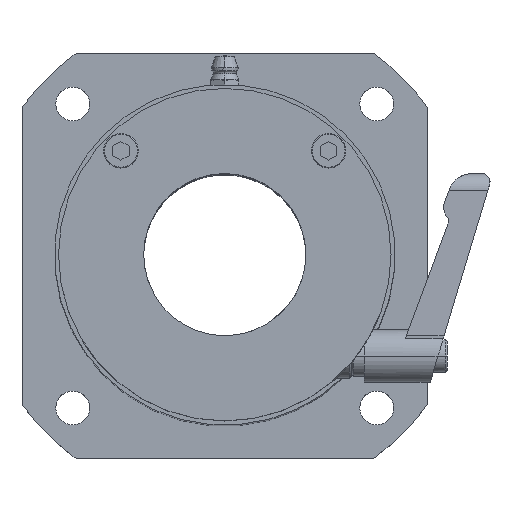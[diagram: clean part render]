
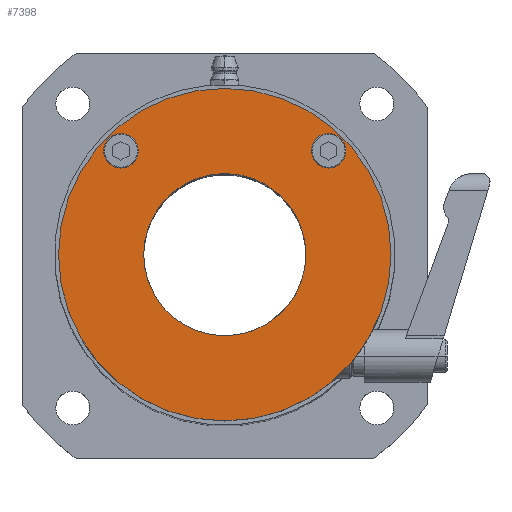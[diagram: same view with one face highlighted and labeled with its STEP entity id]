
A CAD part, top view. The second image highlights one B-rep face of the part: STEP entity #7398.
In plain terms, the highlighted planar face has unit normal (0, 0, 1).
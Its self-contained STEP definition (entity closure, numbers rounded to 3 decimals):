
#569 = DIRECTION ( 'NONE',  ( 1., 0., 0. ) ) ;
#674 = VERTEX_POINT ( 'NONE', #6878 ) ;
#787 = DIRECTION ( 'NONE',  ( 1., 0., 0. ) ) ;
#865 = AXIS2_PLACEMENT_3D ( 'NONE', #6500, #1279, #787 ) ;
#940 = EDGE_LOOP ( 'NONE', ( #10133, #3564 ) ) ;
#1079 = CARTESIAN_POINT ( 'NONE',  ( -40.778, -3.051, 92. ) ) ;
#1110 = ORIENTED_EDGE ( 'NONE', *, *, #3801, .F. ) ;
#1279 = DIRECTION ( 'NONE',  ( 0., 0., 1. ) ) ;
#1684 = EDGE_CURVE ( 'NONE', #2600, #7761, #4446, .T. ) ;
#1765 = CARTESIAN_POINT ( 'NONE',  ( 21.572, 22.549, 92. ) ) ;
#2166 = PLANE ( 'NONE',  #7165 ) ;
#2192 = DIRECTION ( 'NONE',  ( 1., 0., 0. ) ) ;
#2250 = ORIENTED_EDGE ( 'NONE', *, *, #6498, .F. ) ;
#2260 = FACE_BOUND ( 'NONE', #940, .T. ) ;
#2405 = AXIS2_PLACEMENT_3D ( 'NONE', #3417, #10347, #6831 ) ;
#2600 = VERTEX_POINT ( 'NONE', #8654 ) ;
#2633 = EDGE_LOOP ( 'NONE', ( #6880, #8401 ) ) ;
#2998 = FACE_BOUND ( 'NONE', #3782, .T. ) ;
#3051 = DIRECTION ( 'NONE',  ( 1., 0., 0. ) ) ;
#3347 = DIRECTION ( 'NONE',  ( 0., 0., 1. ) ) ;
#3367 = ORIENTED_EDGE ( 'NONE', *, *, #7316, .F. ) ;
#3416 = EDGE_CURVE ( 'NONE', #7761, #2600, #6385, .T. ) ;
#3417 = CARTESIAN_POINT ( 'NONE',  ( 0.222, -3.051, 92. ) ) ;
#3564 = ORIENTED_EDGE ( 'NONE', *, *, #5641, .F. ) ;
#3627 = CARTESIAN_POINT ( 'NONE',  ( 0.222, -3.051, 92. ) ) ;
#3733 = DIRECTION ( 'NONE',  ( 0., 0., 1. ) ) ;
#3782 = EDGE_LOOP ( 'NONE', ( #3367, #10767 ) ) ;
#3801 = EDGE_CURVE ( 'NONE', #674, #6519, #10966, .T. ) ;
#3847 = CIRCLE ( 'NONE', #6719, 4.25 ) ;
#4084 = AXIS2_PLACEMENT_3D ( 'NONE', #3627, #3733, #2192 ) ;
#4195 = AXIS2_PLACEMENT_3D ( 'NONE', #9456, #8665, #10176 ) ;
#4393 = DIRECTION ( 'NONE',  ( 1., 0., 0. ) ) ;
#4446 = CIRCLE ( 'NONE', #4084, 41. ) ;
#4636 = DIRECTION ( 'NONE',  ( 1., 0., 0. ) ) ;
#4843 = CARTESIAN_POINT ( 'NONE',  ( 20.222, -3.051, 92. ) ) ;
#5002 = AXIS2_PLACEMENT_3D ( 'NONE', #9961, #8200, #9108 ) ;
#5216 = VERTEX_POINT ( 'NONE', #5698 ) ;
#5475 = FACE_BOUND ( 'NONE', #10775, .T. ) ;
#5641 = EDGE_CURVE ( 'NONE', #5216, #8020, #3847, .T. ) ;
#5698 = CARTESIAN_POINT ( 'NONE',  ( -21.128, 22.549, 92. ) ) ;
#6385 = CIRCLE ( 'NONE', #865, 41. ) ;
#6498 = EDGE_CURVE ( 'NONE', #6519, #674, #7247, .T. ) ;
#6500 = CARTESIAN_POINT ( 'NONE',  ( 0.222, -3.051, 92. ) ) ;
#6519 = VERTEX_POINT ( 'NONE', #1765 ) ;
#6719 = AXIS2_PLACEMENT_3D ( 'NONE', #9103, #3347, #569 ) ;
#6831 = DIRECTION ( 'NONE',  ( 1., 0., 0. ) ) ;
#6878 = CARTESIAN_POINT ( 'NONE',  ( 30.072, 22.549, 92. ) ) ;
#6880 = ORIENTED_EDGE ( 'NONE', *, *, #3416, .T. ) ;
#6989 = AXIS2_PLACEMENT_3D ( 'NONE', #9698, #7228, #4636 ) ;
#7120 = CARTESIAN_POINT ( 'NONE',  ( 0.222, -3.051, 92. ) ) ;
#7165 = AXIS2_PLACEMENT_3D ( 'NONE', #7120, #10565, #3051 ) ;
#7222 = CIRCLE ( 'NONE', #2405, 20. ) ;
#7228 = DIRECTION ( 'NONE',  ( 0., 0., 1. ) ) ;
#7247 = CIRCLE ( 'NONE', #4195, 4.25 ) ;
#7316 = EDGE_CURVE ( 'NONE', #9391, #9476, #9669, .T. ) ;
#7398 = ADVANCED_FACE ( 'NONE', ( #5475, #2260, #8907, #2998 ), #2166, .T. ) ;
#7761 = VERTEX_POINT ( 'NONE', #1079 ) ;
#7884 = CIRCLE ( 'NONE', #5002, 4.25 ) ;
#8020 = VERTEX_POINT ( 'NONE', #8404 ) ;
#8200 = DIRECTION ( 'NONE',  ( 0., 0., 1. ) ) ;
#8401 = ORIENTED_EDGE ( 'NONE', *, *, #1684, .T. ) ;
#8404 = CARTESIAN_POINT ( 'NONE',  ( -29.628, 22.549, 92. ) ) ;
#8654 = CARTESIAN_POINT ( 'NONE',  ( 41.222, -3.051, 92. ) ) ;
#8665 = DIRECTION ( 'NONE',  ( 0., 0., 1. ) ) ;
#8851 = CARTESIAN_POINT ( 'NONE',  ( -19.778, -3.051, 92. ) ) ;
#8907 = FACE_OUTER_BOUND ( 'NONE', #2633, .T. ) ;
#9103 = CARTESIAN_POINT ( 'NONE',  ( -25.378, 22.549, 92. ) ) ;
#9108 = DIRECTION ( 'NONE',  ( 1., 0., 0. ) ) ;
#9383 = AXIS2_PLACEMENT_3D ( 'NONE', #10975, #10379, #4393 ) ;
#9391 = VERTEX_POINT ( 'NONE', #8851 ) ;
#9456 = CARTESIAN_POINT ( 'NONE',  ( 25.822, 22.549, 92. ) ) ;
#9476 = VERTEX_POINT ( 'NONE', #4843 ) ;
#9602 = EDGE_CURVE ( 'NONE', #9476, #9391, #7222, .T. ) ;
#9669 = CIRCLE ( 'NONE', #6989, 20. ) ;
#9698 = CARTESIAN_POINT ( 'NONE',  ( 0.222, -3.051, 92. ) ) ;
#9961 = CARTESIAN_POINT ( 'NONE',  ( -25.378, 22.549, 92. ) ) ;
#10133 = ORIENTED_EDGE ( 'NONE', *, *, #10795, .F. ) ;
#10176 = DIRECTION ( 'NONE',  ( 1., 0., 0. ) ) ;
#10347 = DIRECTION ( 'NONE',  ( 0., 0., 1. ) ) ;
#10379 = DIRECTION ( 'NONE',  ( 0., 0., 1. ) ) ;
#10565 = DIRECTION ( 'NONE',  ( 0., 0., 1. ) ) ;
#10767 = ORIENTED_EDGE ( 'NONE', *, *, #9602, .F. ) ;
#10775 = EDGE_LOOP ( 'NONE', ( #2250, #1110 ) ) ;
#10795 = EDGE_CURVE ( 'NONE', #8020, #5216, #7884, .T. ) ;
#10966 = CIRCLE ( 'NONE', #9383, 4.25 ) ;
#10975 = CARTESIAN_POINT ( 'NONE',  ( 25.822, 22.549, 92. ) ) ;
